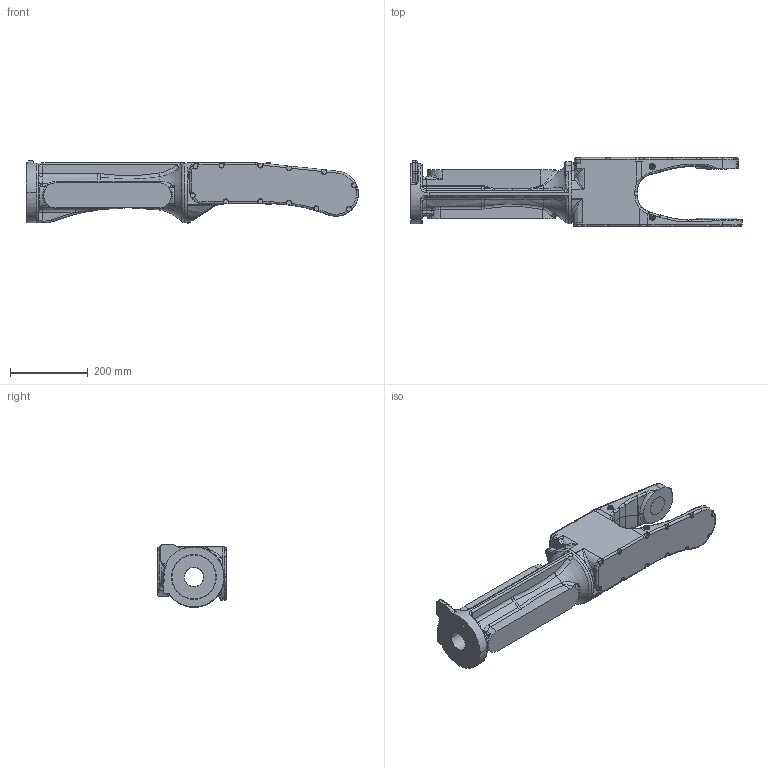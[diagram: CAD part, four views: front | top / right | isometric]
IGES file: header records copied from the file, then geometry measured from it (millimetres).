
Start section:  PTC IGES file: r_axis.igs
Global section: file name: r_axis.igs; native system: Creo Parametric by Parametric Technology Corporation; preprocessor: 2014000; author: Miyoshi_Nozomi; organization: Unknown; date: 20170720.145835; units: millimetre
Bounding box: 852 x 177 x 160.99 mm (x, y, z)
Volume: 7722159.5 mm3; surface area: 552441.6 mm2
Topology: 1 solids, 6 shells, 1046 faces, 2470 edges, 1430 vertices
Faces by surface type: revolution 527, bspline 519
